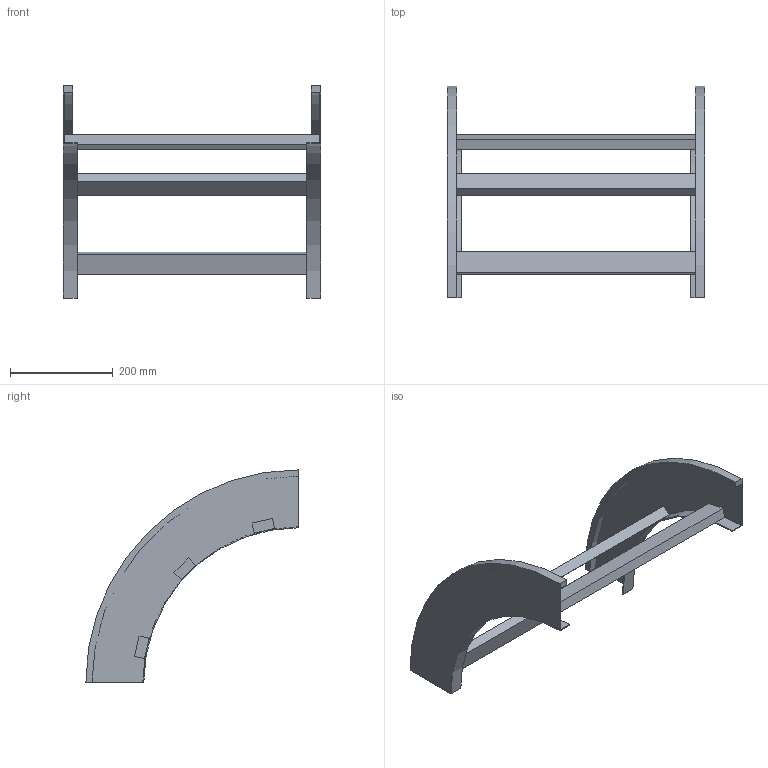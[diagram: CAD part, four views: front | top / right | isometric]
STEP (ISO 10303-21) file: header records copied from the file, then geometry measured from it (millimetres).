
FILE_DESCRIPTION (( 'STEP AP214' ), '1' );
FILE_NAME ('B2_33B3J500.step', '2025-02-21T15:04:14', ( '' ), ( '' ), 'SwSTEP 2.0', 'SolidWorks 2023', '' );
FILE_SCHEMA (( 'AUTOMOTIVE_DESIGN' ));
Length unit declared in the file: millimetre
Products named in the file (3): B2_33B3J500; B2_LONGH.DISCESA_90°_H112.5_R300; TRAVERSINO_500
Assembly tree (5 placements, depth 2):
  B2_33B3J500
    B2_LONGH.DISCESA_90°_H112.5_R300  x2
    TRAVERSINO_500  x3
Bounding box: 500 x 412.5 x 412.5 mm (x, y, z)
Volume: 1749574.3 mm3; surface area: 531217.9 mm2
Topology: 5 solids, 5 shells, 38 faces, 84 edges, 56 vertices
Faces by surface type: plane 30, cylinder 8
Entity records: 560 total; most frequent: DIRECTION 92, CARTESIAN_POINT 84, ORIENTED_EDGE 72, EDGE_CURVE 36, AXIS2_PLACEMENT_3D 32, LINE 28, VECTOR 28, VERTEX_POINT 24
